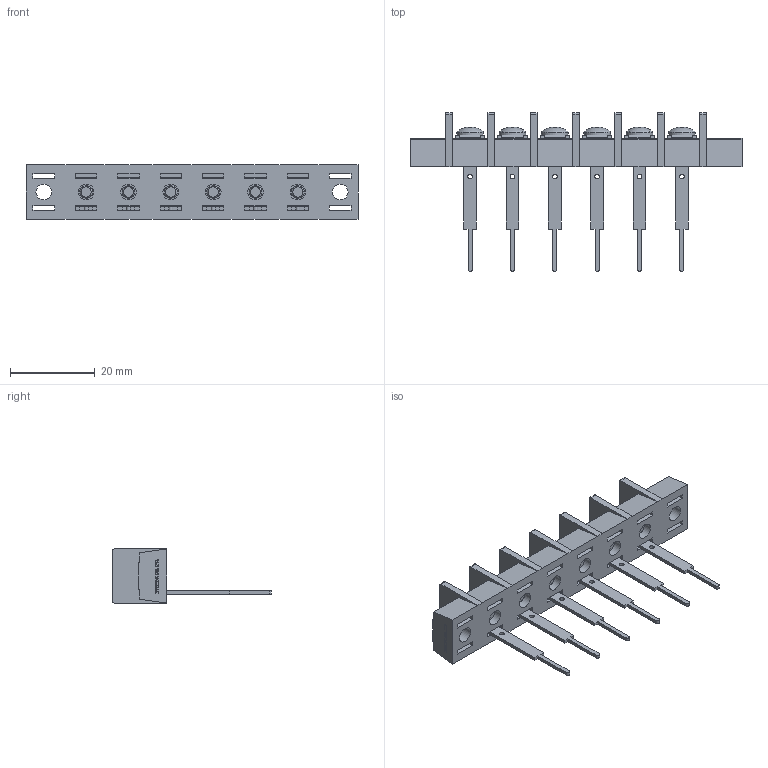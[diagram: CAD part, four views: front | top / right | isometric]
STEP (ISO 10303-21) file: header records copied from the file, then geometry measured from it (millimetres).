
FILE_DESCRIPTION(/* description */ ('Alibre Inc.'),/* implementation_level */ '2;1');
FILE_NAME(/* name */ 'export0',/* time_stamp */ '2015-10-22T20:26:44+09:00',/* author */ (''),/* organization */ (''),/* preprocessor_version */ 'ST-DEVELOPER v14',/* originating_system */ 'Alibre',/* authorisation */ '');
FILE_SCHEMA (('CONFIG_CONTROL_DESIGN'));
Length unit declared in the file: centimetre
Products named in the file (1): ID_1
Bounding box: 78.4 x 37.5 x 12.8 mm (x, y, z)
Volume: 7001.1 mm3; surface area: 8633.8 mm2
Topology: 1 solids, 103 shells, 2128 faces, 5488 edges, 3632 vertices
Faces by surface type: plane 1592, bspline 416, cylinder 72, cone 30, torus 12, sphere 6
Full cylindrical faces by diameter (mm): 1.1 x6, 3 x12, 3.7 x8, 4.6 x8, 6.3 x6
Entity records: 61777 total; most frequent: CARTESIAN_POINT 14909, ORIENTED_EDGE 10832, DIRECTION 6468, EDGE_CURVE 5416, VECTOR 4180, LINE 4180, VERTEX_POINT 3618, EDGE_LOOP 2360
